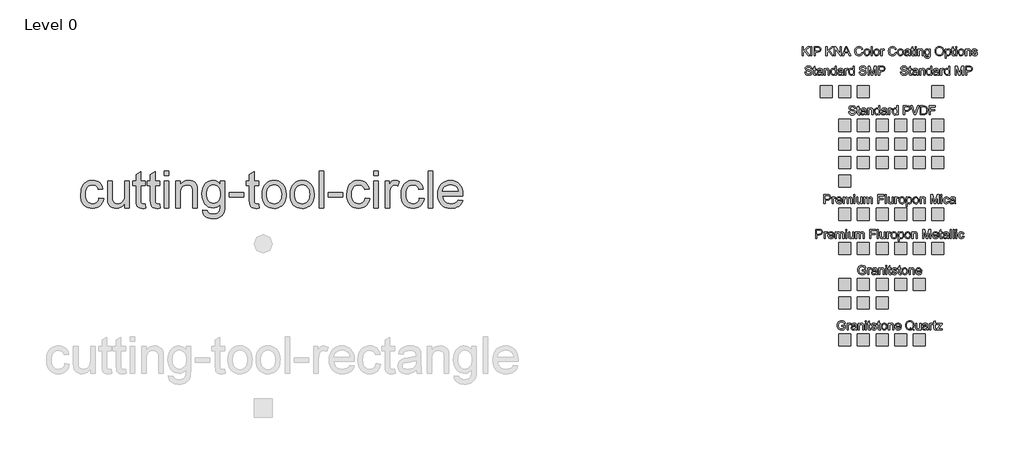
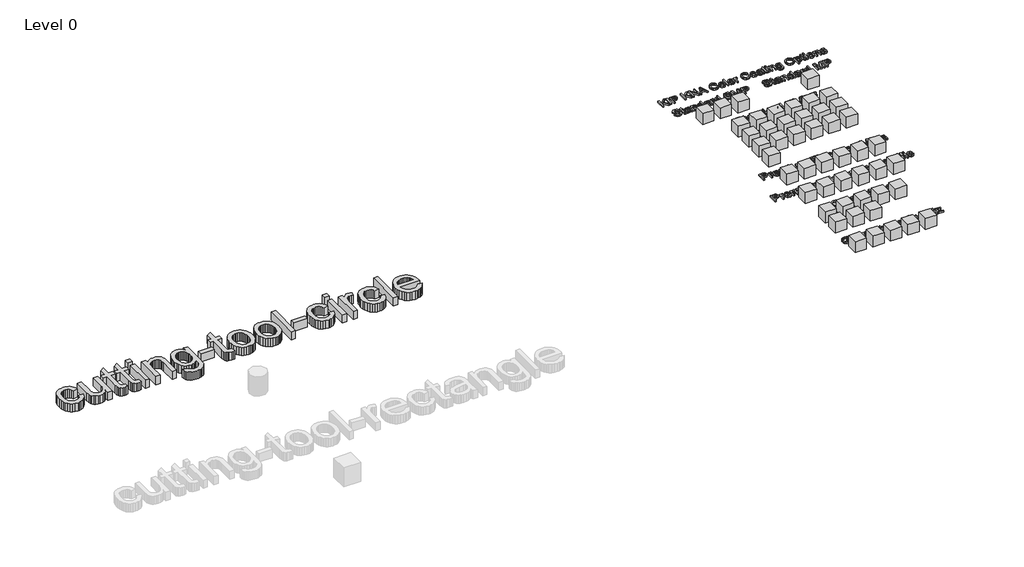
# One storey, part 3 of 3: 50 proxies.
"""IFC4 building model written with IfcOpenShell, lengths in millimetres."""

from ifc_helpers import new_model, si_unit, origin, origin_with_axes, place, context, project, spatial, polyline, outline, extrude, transform, mapped, element, save
from components import kna_color_range_kingspan_quadcore_4278cd54, kna_color_range_kingspan_quadcore_c5814d20, kna_color_range_kingspan_quadcore_91b79b7c, ks_color_sample_ks_color_sample_0243efec

model = new_model("IFC4")

# Units and contexts
model_context = context("Model", 3, world=origin())
ifc_project = project(units=[si_unit("LENGTHUNIT", "METRE", prefix="MILLI")], contexts=[model_context])

# Site, building, storey
site = spatial("IfcSite", under=ifc_project)
building = spatial("IfcBuilding", under=site)
storey = spatial("IfcBuildingStorey", under=building, Name="Level 0", Elevation=0.0)

# Proxies
placement = place(None, origin())
element("IfcBuildingElementProxy", 1, Name="24\" Arial", ObjectType="24\" Arial", at=placement, inside=storey, context=model_context, shape_type="SweptSolid", body=[
    extrude(outline(polyline([(73.842993, 11868.1857793), (149.9847665, 11858.6680576), (141.7032333, 11822.7395877), (128.7557857, 11790.9472371), (111.1424238, 11763.2910057), (88.8631476, 11739.7708937), (62.8567166, 11721.0003478), (34.0618906, 11707.5928151), (2.4786696, 11699.5482954), (-31.8929464, 11696.8667889), (-74.5972162, 11700.6078855), (-112.8865272, 11711.8311755), (-146.7608795, 11730.5366588), (-176.2202729, 11756.7243354), (-200.0656977, 11789.9015889), (-217.098144, 11829.5758028), (-227.3176118, 11875.7469771), (-230.724101, 11928.4151118), (-224.9056501, 11996.173111), (-217.6325864, 12026.6642106), (-207.4502972, 12054.8967102), (-194.2890727, 12080.3036363), (-178.079203, 12102.318015), (-158.820688, 12120.9398464), (-136.5135278, 12136.1691306), (-112.1661919, 12148.0105148), (-86.7871498, 12156.4686464), (-60.3764016, 12161.5435253), (-32.9339472, 12163.2351517), (0.8474586, 12160.9114891), (31.4036207, 12153.9405016), (58.7345393, 12142.322189), (82.8402143, 12126.0565513), (103.3116811, 12105.5153746), (119.7399752, 12081.0704449), (132.1250964, 12052.7217621), (140.4670448, 12020.4693263), (64.3252713, 12010.9516046), (50.5134213, 12044.170684), (29.005601, 12067.9835776), (0.9915256, 12082.315928), (-32.3390896, 12087.0933781), (-58.2107481, 12084.7418317), (-81.5449671, 12077.6871923), (-102.3417467, 12065.9294599), (-120.6010868, 12049.4686346), (-135.4678796, 12027.9236357), (-146.0870174, 12000.9133825), (-152.4585, 11968.4378751), (-154.5823275, 11930.4971135), (-152.5049732, 11891.9847308), (-146.2729104, 11859.1327901), (-135.8861389, 11831.9412913), (-121.3446588, 11810.4102343), (-103.4478101, 11794.0470029), (-82.9949326, 11782.3589804), (-59.9860263, 11775.3461669), (-34.4210912, 11773.0085624), (5.0068145, 11778.8456026), (22.0578501, 11786.141903), (37.3336075, 11796.3567234), (50.4065328, 11809.6015998), (60.8490722, 11825.9880679), (68.6612256, 11845.5161277), (73.842993, 11868.1857793)])), origin_with_axes(), (0.0, 0.0, 1.0), 152.4),
    extrude(outline(polyline([(502.1404691, 11706.3845106), (502.1404691, 11783.2698561), (474.5911262, 11745.4685142), (442.5059941, 11718.4675557), (405.8850727, 11702.2669806), (364.7283622, 11696.8667889), (327.6427083, 11700.6590061), (293.1223779, 11712.0356578), (264.1602482, 11729.137814), (243.7491966, 11750.1065446), (230.0117038, 11775.5738858), (221.0702504, 11806.1718739), (216.6088184, 11876.959929), (216.6088184, 12153.71743), (292.7505919, 12153.71743), (292.7505919, 11912.8000997), (293.9031285, 11864.6166336), (297.3607383, 11835.1711822), (308.4585505, 11809.276287), (327.4754046, 11789.5902181), (353.1472281, 11777.1539763), (384.2099487, 11773.0085624), (417.0572422, 11777.2469228), (447.7853553, 11789.9620041), (473.1225715, 11809.9826804), (489.7971737, 11836.1378258), (499.0546452, 11871.9594072), (502.1404691, 11920.9793918), (502.1404691, 12153.71743), (578.2822426, 12153.71743), (578.2822426, 11706.3845106), (502.1404691, 11706.3845106)])), origin_with_axes(), (0.0, 0.0, 1.0), 152.4),
    extrude(outline(polyline([(844.7784499, 11769.88556), (854.2961716, 11704.1537945), (824.1443267, 11698.6885403), (797.3385558, 11696.8667889), (760.7919917, 11700.0269699), (733.5400776, 11709.507513), (714.2815627, 11724.1187029), (701.7151957, 11742.6708245), (694.7999761, 11774.532885), (692.4949028, 11829.0738917), (692.4949028, 12077.5756565), (635.3885727, 12077.5756565), (635.3885727, 12153.71743), (692.4949028, 12153.71743), (692.4949028, 12262.4276574), (768.6366764, 12307.1906922), (768.6366764, 12153.71743), (844.7784499, 12153.71743), (844.7784499, 12077.5756565), (768.6366764, 12077.5756565), (768.6366764, 11831.3046077), (772.6519652, 11792.0440058), (785.6644753, 11778.1392092), (796.6507517, 11774.2912241), (811.6151384, 11773.0085624), (844.7784499, 11769.88556)])), origin_with_axes(), (0.0, 0.0, 1.0), 152.4),
    extrude(outline(polyline([(1082.7214921, 11769.88556), (1092.2392138, 11704.1537945), (1062.0873689, 11698.6885403), (1035.2815981, 11696.8667889), (998.7350339, 11700.0269699), (971.4831199, 11709.507513), (952.2246049, 11724.1187029), (939.658238, 11742.6708245), (932.7430183, 11774.532885), (930.4379451, 11829.0738917), (930.4379451, 12077.5756565), (873.3316149, 12077.5756565), (873.3316149, 12153.71743), (930.4379451, 12153.71743), (930.4379451, 12262.4276574), (1006.5797186, 12307.1906922), (1006.5797186, 12153.71743), (1082.7214921, 12153.71743), (1082.7214921, 12077.5756565), (1006.5797186, 12077.5756565), (1006.5797186, 11831.3046077), (1010.5950074, 11792.0440058), (1023.6075176, 11778.1392092), (1034.593794, 11774.2912241), (1049.5581806, 11773.0085624), (1082.7214921, 11769.88556)])), origin_with_axes(), (0.0, 0.0, 1.0), 152.4),
    extrude(outline(polyline([(1158.8632656, 12239.3769252), (1158.8632656, 12315.5186987), (1235.0050392, 12315.5186987), (1235.0050392, 12239.3769252), (1158.8632656, 12239.3769252)])), origin_with_axes(), (0.0, 0.0, 1.0), 152.4),
    extrude(outline(polyline([(1158.8632656, 11706.3845106), (1158.8632656, 12153.71743), (1235.0050392, 12153.71743), (1235.0050392, 11706.3845106), (1158.8632656, 11706.3845106)])), origin_with_axes(), (0.0, 0.0, 1.0), 152.4),
    extrude(outline(polyline([(1349.2176994, 11706.3845106), (1349.2176994, 12153.71743), (1425.3594729, 12153.71743), (1425.3594729, 12091.2573814), (1451.8120471, 12122.7476559), (1483.5811611, 12145.2407091), (1520.6668149, 12158.736541), (1563.0690086, 12163.2351517), (1600.6008057, 12159.6102381), (1634.9724217, 12148.7354975), (1663.6371226, 12131.9679488), (1684.0481742, 12110.6646108), (1697.8972028, 12084.8812514), (1706.8758348, 12054.6736386), (1710.8911236, 11981.0600099), (1710.8911236, 11706.3845106), (1634.7493501, 11706.3845106), (1634.7493501, 11970.7987162), (1632.5558127, 12010.170854), (1625.9752004, 12038.1663401), (1613.8363874, 12058.224195), (1594.9682477, 12073.7834392), (1570.7835682, 12083.7658934), (1542.6951357, 12087.0933781), (1519.5746936, 12085.2251535), (1498.0994045, 12079.6204795), (1478.2692686, 12070.2793561), (1460.0842857, 12057.2017835), (1444.8921801, 12038.9006174), (1434.0406761, 12013.8887141), (1427.5297737, 11982.1660733), (1425.3594729, 11943.7326952), (1425.3594729, 11706.3845106), (1349.2176994, 11706.3845106)])), origin_with_axes(), (0.0, 0.0, 1.0), 152.4),
    extrude(outline(polyline([(1796.5506188, 11668.3136238), (1872.6923924, 11658.7959021), (1881.094756, 11635.0015979), (1897.378983, 11618.6430137), (1929.3897579, 11605.9279324), (1971.2900405, 11601.689572), (2015.9787181, 11606.4856114), (2034.0289286, 11612.4806607), (2049.2163868, 11620.8737297), (2072.267119, 11643.924462), (2086.3949872, 11674.7083431), (2090.5218118, 11707.46269), (2091.5999912, 11763.4908407), (2066.2627751, 11738.5068213), (2037.9884495, 11720.6610931), (2006.7770145, 11709.9536562), (1972.6284701, 11706.3845106), (1930.8815492, 11710.5392191), (1894.1258555, 11723.0033449), (1862.3613888, 11743.7768879), (1835.5881492, 11772.859848), (1814.3452264, 11807.7519644), (1799.1717102, 11845.9529763), (1790.0676004, 11887.4628836), (1787.0328972, 11932.2816863), (1792.4795621, 11993.756502), (1808.819557, 12050.2865638), (1820.930486, 12075.7771417), (1835.4766134, 12098.1911903), (1852.4579391, 12117.5287099), (1871.8744632, 12133.7897002), (1893.4148147, 12146.6720852), (1916.7676231, 12155.8737888), (1941.9328882, 12161.3948109), (1968.9106101, 12163.2351517), (2004.5184146, 12159.0711484), (2036.8359129, 12146.5791387), (2065.8631051, 12125.7591225), (2091.5999912, 12096.6110998), (2091.5999912, 12153.71743), (2167.7417647, 12153.71743), (2167.7417647, 11767.5061295), (2162.5367607, 11678.3332566), (2156.0305056, 11645.1652978), (2146.9217485, 11619.6096573), (2134.9920652, 11598.9987708), (2120.0230312, 11580.6650735), (2102.0146466, 11564.6085654), (2080.9669115, 11550.8292467), (2057.0936028, 11539.7686131), (2030.6084973, 11531.8681605), (2001.5115952, 11527.127889), (1969.8028965, 11525.5477985), (1932.4988183, 11527.7738671), (1898.9590735, 11534.4520732), (1869.183662, 11545.5824167), (1843.1725837, 11561.1648976), (1822.1620272, 11581.2181052), (1807.3881808, 11605.7606287), (1798.8510447, 11634.7924683), (1796.5506188, 11668.3136238)]), holes=[polyline([(1863.1746707, 11937.4866903), (1865.2055517, 11899.8387102), (1871.2981948, 11867.6466896), (1881.4526001, 11840.9106286), (1895.6687674, 11819.6305272), (1912.9521692, 11803.3974208), (1932.308278, 11791.8023449), (1953.7370938, 11784.8452993), (1977.2386165, 11782.5262841), (2000.507773, 11784.8313573), (2021.8343477, 11791.746577), (2041.2183404, 11803.2719431), (2058.6597513, 11819.4074556), (2073.0711063, 11840.4784274), (2083.3649312, 11866.8101711), (2089.5412262, 11898.4026867), (2091.5999912, 11935.2559743), (2089.480811, 11970.5709973), (2083.1232703, 12001.2665792), (2072.5273692, 12027.3427201), (2057.6931077, 12048.7994198), (2039.8752635, 12065.5530266), (2020.3286144, 12077.5198886), (1999.0531603, 12084.7000057), (1976.0489013, 12087.0933781), (1953.4303703, 12084.7371843), (1932.5685282, 12077.668603), (1913.463375, 12065.887634), (1896.1149106, 12049.3942774), (1881.7035556, 12028.2628904), (1871.4097306, 12002.5678302), (1865.2334357, 11972.3090969), (1863.1746707, 11937.4866903)])]), origin_with_axes(), (0.0, 0.0, 1.0), 152.4),
    extrude(outline(polyline([(2243.8835383, 11887.2212227), (2243.8835383, 11963.3629962), (2481.8265805, 11963.3629962), (2481.8265805, 11887.2212227), (2243.8835383, 11887.2212227)])), origin_with_axes(), (0.0, 0.0, 1.0), 152.4),
    extrude(outline(polyline([(2729.2873444, 11769.88556), (2738.8050661, 11704.1537945), (2708.6532212, 11698.6885403), (2681.8474504, 11696.8667889), (2645.3008862, 11700.0269699), (2618.0489722, 11709.507513), (2598.7904572, 11724.1187029), (2586.2240903, 11742.6708245), (2579.3088706, 11774.532885), (2577.0037974, 11829.0738917), (2577.0037974, 12077.5756565), (2519.8974673, 12077.5756565), (2519.8974673, 12153.71743), (2577.0037974, 12153.71743), (2577.0037974, 12262.4276574), (2653.1455709, 12307.1906922), (2653.1455709, 12153.71743), (2729.2873444, 12153.71743), (2729.2873444, 12077.5756565), (2653.1455709, 12077.5756565), (2653.1455709, 11831.3046077), (2657.1608597, 11792.0440058), (2670.1733699, 11778.1392092), (2681.1596463, 11774.2912241), (2696.1240329, 11773.0085624), (2729.2873444, 11769.88556)])), origin_with_axes(), (0.0, 0.0, 1.0), 152.4),
    extrude(outline(polyline([(2786.3936746, 11930.0509703), (2790.5112046, 11987.9845243), (2802.8637945, 12037.9060899), (2823.4514445, 12079.8156671), (2852.2741544, 12113.713256), (2881.292052, 12135.3790853), (2913.3214162, 12150.8546777), (2948.362247, 12160.1400332), (2986.4145444, 12163.2351517), (3028.4217155, 12159.466171), (3066.4043031, 12148.1592292), (3100.3623072, 12129.3143262), (3130.2957278, 12102.9314619), (3154.7267156, 12069.9029228), (3172.1774211, 12031.1209953), (3182.6478444, 11986.5856794), (3186.1379855, 11936.2969751), (3184.5950736, 11895.5399345), (3179.9663379, 11859.374451), (3172.2517783, 11827.8005246), (3161.4513949, 11800.8181554), (3147.6999601, 11777.5118203), (3131.1322463, 11756.9659963), (3111.7482536, 11739.1806834), (3089.5479818, 11724.1558815), (3065.3958336, 11712.2169035), (3040.1562113, 11703.689062), (3013.8291149, 11698.5723572), (2986.4145444, 11696.8667889), (2943.7939265, 11700.6218275), (2905.4581422, 11711.8869434), (2871.4071916, 11730.6621366), (2841.6410747, 11756.947407), (2817.4703371, 11790.2966115), (2800.2055246, 11830.2636069), (2789.8466371, 11876.8483932), (2786.3936746, 11930.0509703)]), holes=[polyline([(2862.5354481, 11930.1996847), (2864.7382802, 11893.2673925), (2871.3467764, 11861.2891489), (2882.3609367, 11834.2649538), (2897.7807612, 11812.1948072), (2916.5373651, 11795.0508251), (2937.5618636, 11782.8051236), (2960.8542567, 11775.4577027), (2986.4145444, 11773.0085624), (3011.8447071, 11775.4716447), (3035.0441537, 11782.8608915), (3056.0128843, 11795.1763028), (3074.7508989, 11812.4178788), (3090.1707234, 11834.7064497), (3101.1848837, 11862.162846), (3107.7933799, 11894.7870678), (3109.996212, 11932.5791151), (3107.779438, 11968.3402813), (3101.1291158, 11999.4820064), (3090.0452456, 12026.0042904), (3074.5278273, 12047.9071334), (3055.7201028, 12065.0511155), (3034.7653142, 12077.2968169), (3011.6634614, 12084.6442378), (2986.4145444, 12087.0933781), (2960.8542567, 12084.6535325), (2937.5618636, 12077.3339955), (2916.5373651, 12065.1347673), (2897.7807612, 12048.0558478), (2882.3609367, 12026.0507637), (2871.3467764, 11999.0730418), (2864.7382802, 11967.1226821), (2862.5354481, 11930.1996847)])]), origin_with_axes(), (0.0, 0.0, 1.0), 152.4),
    extrude(outline(polyline([(3252.7620374, 11930.0509703), (3256.8795673, 11987.9845243), (3269.2321573, 12037.9060899), (3289.8198073, 12079.8156671), (3318.6425172, 12113.713256), (3347.6604148, 12135.3790853), (3379.689779, 12150.8546777), (3414.7306098, 12160.1400332), (3452.7829072, 12163.2351517), (3494.7900783, 12159.466171), (3532.7726659, 12148.1592292), (3566.73067, 12129.3143262), (3596.6640906, 12102.9314619), (3621.0950784, 12069.9029228), (3638.5457839, 12031.1209953), (3649.0162072, 11986.5856794), (3652.5063483, 11936.2969751), (3650.9634364, 11895.5399345), (3646.3347007, 11859.374451), (3638.6201411, 11827.8005246), (3627.8197577, 11800.8181554), (3614.0683229, 11777.5118203), (3597.5006091, 11756.9659963), (3578.1166163, 11739.1806834), (3555.9163446, 11724.1558815), (3531.7641964, 11712.2169035), (3506.524574, 11703.689062), (3480.1974777, 11698.5723572), (3452.7829072, 11696.8667889), (3410.1622893, 11700.6218275), (3371.826505, 11711.8869434), (3337.7755544, 11730.6621366), (3308.0094375, 11756.947407), (3283.8386999, 11790.2966115), (3266.5738874, 11830.2636069), (3256.2149999, 11876.8483932), (3252.7620374, 11930.0509703)]), holes=[polyline([(3328.9038109, 11930.1996847), (3331.1066429, 11893.2673925), (3337.7151392, 11861.2891489), (3348.7292995, 11834.2649538), (3364.149124, 11812.1948072), (3382.9057279, 11795.0508251), (3403.9302264, 11782.8051236), (3427.2226195, 11775.4577027), (3452.7829072, 11773.0085624), (3478.2130699, 11775.4716447), (3501.4125165, 11782.8608915), (3522.3812471, 11795.1763028), (3541.1192617, 11812.4178788), (3556.5390862, 11834.7064497), (3567.5532465, 11862.162846), (3574.1617427, 11894.7870678), (3576.3645748, 11932.5791151), (3574.1478008, 11968.3402813), (3567.4974786, 11999.4820064), (3556.4136084, 12026.0042904), (3540.8961901, 12047.9071334), (3522.0884656, 12065.0511155), (3501.133677, 12077.2968169), (3478.0318242, 12084.6442378), (3452.7829072, 12087.0933781), (3427.2226195, 12084.6535325), (3403.9302264, 12077.3339955), (3382.9057279, 12065.1347673), (3364.149124, 12048.0558478), (3348.7292995, 12026.0507637), (3337.7151392, 11999.0730418), (3331.1066429, 11967.1226821), (3328.9038109, 11930.1996847)])]), origin_with_axes(), (0.0, 0.0, 1.0), 152.4),
    extrude(outline(polyline([(3738.1658435, 11706.3845106), (3738.1658435, 12315.5186987), (3814.307617, 12315.5186987), (3814.307617, 11706.3845106), (3738.1658435, 11706.3845106)])), origin_with_axes(), (0.0, 0.0, 1.0), 152.4),
    extrude(outline(polyline([(3890.4493906, 11887.2212227), (3890.4493906, 11963.3629962), (4128.3924328, 11963.3629962), (4128.3924328, 11887.2212227), (3890.4493906, 11887.2212227)])), origin_with_axes(), (0.0, 0.0, 1.0), 152.4),
    extrude(outline(polyline([(4499.5835787, 11868.1857793), (4575.7253522, 11858.6680576), (4567.443819, 11822.7395877), (4554.4963714, 11790.9472371), (4536.8830095, 11763.2910057), (4514.6037332, 11739.7708937), (4488.5973023, 11721.0003478), (4459.8024763, 11707.5928151), (4428.2192553, 11699.5482954), (4393.8476393, 11696.8667889), (4351.1433695, 11700.6078855), (4312.8540584, 11711.8311755), (4278.9797062, 11730.5366588), (4249.5203127, 11756.7243354), (4225.6748879, 11789.9015889), (4208.6424417, 11829.5758028), (4198.4229739, 11875.7469771), (4195.0164846, 11928.4151118), (4200.8349356, 11996.173111), (4208.1079993, 12026.6642106), (4218.2902884, 12054.8967102), (4231.451513, 12080.3036363), (4247.6613827, 12102.318015), (4266.9198977, 12120.9398464), (4289.2270579, 12136.1691306), (4313.5743938, 12148.0105148), (4338.9534359, 12156.4686464), (4365.3641841, 12161.5435253), (4392.8066385, 12163.2351517), (4426.5880442, 12160.9114891), (4457.1442064, 12153.9405016), (4484.475125, 12142.322189), (4508.5808, 12126.0565513), (4529.0522668, 12105.5153746), (4545.4805608, 12081.0704449), (4557.8656821, 12052.7217621), (4566.2076305, 12020.4693263), (4490.065857, 12010.9516046), (4476.254007, 12044.170684), (4454.7461867, 12067.9835776), (4426.7321113, 12082.315928), (4393.4014961, 12087.0933781), (4367.5298376, 12084.7418317), (4344.1956185, 12077.6871923), (4323.398839, 12065.9294599), (4305.1394989, 12049.4686346), (4290.2727061, 12027.9236357), (4279.6535683, 12000.9133825), (4273.2820857, 11968.4378751), (4271.1582581, 11930.4971135), (4273.2356124, 11891.9847308), (4279.4676753, 11859.1327901), (4289.8544468, 11831.9412913), (4304.3959269, 11810.4102343), (4322.2927756, 11794.0470029), (4342.7456531, 11782.3589804), (4365.7545594, 11775.3461669), (4391.3194945, 11773.0085624), (4430.7474002, 11778.8456026), (4447.7984357, 11786.141903), (4463.0741932, 11796.3567234), (4476.1471185, 11809.6015998), (4486.5896579, 11825.9880679), (4494.4018113, 11845.5161277), (4499.5835787, 11868.1857793)])), origin_with_axes(), (0.0, 0.0, 1.0), 152.4),
    extrude(outline(polyline([(4642.349404, 12239.3769252), (4642.349404, 12315.5186987), (4718.4911776, 12315.5186987), (4718.4911776, 12239.3769252), (4642.349404, 12239.3769252)])), origin_with_axes(), (0.0, 0.0, 1.0), 152.4),
    extrude(outline(polyline([(4642.349404, 11706.3845106), (4642.349404, 12153.71743), (4718.4911776, 12153.71743), (4718.4911776, 11706.3845106), (4642.349404, 11706.3845106)])), origin_with_axes(), (0.0, 0.0, 1.0), 152.4),
    extrude(outline(polyline([(4832.7038378, 11706.3845106), (4832.7038378, 12153.71743), (4899.3278897, 12153.71743), (4899.3278897, 12087.5395213), (4923.9401231, 12125.9078369), (4946.6190693, 12148.5124259), (4969.3723727, 12159.5544702), (4994.2076778, 12163.2351517), (5032.1298501, 12157.3609328), (5070.6468801, 12139.7382762), (5045.2167174, 12071.478366), (5018.4481252, 12083.1896251), (4991.6795329, 12087.0933781), (4968.9448188, 12083.3383395), (4948.6267137, 12072.0732236), (4932.2123617, 12054.1531382), (4921.1889067, 12030.4331912), (4911.9314352, 11987.9008724), (4908.8456114, 11941.5019792), (4908.8456114, 11706.3845106), (4832.7038378, 11706.3845106)])), origin_with_axes(), (0.0, 0.0, 1.0), 152.4),
    extrude(outline(polyline([(5403.7671392, 11868.1857793), (5479.9089127, 11858.6680576), (5471.6273795, 11822.7395877), (5458.6799319, 11790.9472371), (5441.06657, 11763.2910057), (5418.7872938, 11739.7708937), (5392.7808628, 11721.0003478), (5363.9860368, 11707.5928151), (5332.4028158, 11699.5482954), (5298.0311998, 11696.8667889), (5255.32693, 11700.6078855), (5217.037619, 11711.8311755), (5183.1632667, 11730.5366588), (5153.7038733, 11756.7243354), (5129.8584485, 11789.9015889), (5112.8260022, 11829.5758028), (5102.6065344, 11875.7469771), (5099.2000451, 11928.4151118), (5105.0184961, 11996.173111), (5112.2915598, 12026.6642106), (5122.473849, 12054.8967102), (5135.6350735, 12080.3036363), (5151.8449432, 12102.318015), (5171.1034582, 12120.9398464), (5193.4106184, 12136.1691306), (5217.7579543, 12148.0105148), (5243.1369964, 12156.4686464), (5269.5477446, 12161.5435253), (5296.990199, 12163.2351517), (5330.7716048, 12160.9114891), (5361.3277669, 12153.9405016), (5388.6586855, 12142.322189), (5412.7643605, 12126.0565513), (5433.2358273, 12105.5153746), (5449.6641213, 12081.0704449), (5462.0492426, 12052.7217621), (5470.391191, 12020.4693263), (5394.2494175, 12010.9516046), (5380.4375675, 12044.170684), (5358.9297472, 12067.9835776), (5330.9156718, 12082.315928), (5297.5850566, 12087.0933781), (5271.7133981, 12084.7418317), (5248.3791791, 12077.6871923), (5227.5823995, 12065.9294599), (5209.3230594, 12049.4686346), (5194.4562666, 12027.9236357), (5183.8371288, 12000.9133825), (5177.4656462, 11968.4378751), (5175.3418187, 11930.4971135), (5177.419173, 11891.9847308), (5183.6512358, 11859.1327901), (5194.0380073, 11831.9412913), (5208.5794874, 11810.4102343), (5226.4763361, 11794.0470029), (5246.9292136, 11782.3589804), (5269.9381199, 11775.3461669), (5295.503055, 11773.0085624), (5334.9309607, 11778.8456026), (5351.9819963, 11786.141903), (5367.2577537, 11796.3567234), (5380.330679, 11809.6015998), (5390.7732184, 11825.9880679), (5398.5853718, 11845.5161277), (5403.7671392, 11868.1857793)])), origin_with_axes(), (0.0, 0.0, 1.0), 152.4),
    extrude(outline(polyline([(5546.5329646, 11706.3845106), (5546.5329646, 12315.5186987), (5622.6747381, 12315.5186987), (5622.6747381, 11706.3845106), (5546.5329646, 11706.3845106)])), origin_with_axes(), (0.0, 0.0, 1.0), 152.4),
    extrude(outline(polyline([(6050.0799277, 11839.6326142), (6124.7345572, 11830.1148925), (6113.2881956, 11800.2140032), (6097.8358399, 11773.8636702), (6078.3774899, 11751.0638935), (6054.9131457, 11731.8146732), (6027.6844683, 11716.5249738), (5996.9331185, 11705.6037599), (5962.6590963, 11699.0510316), (5924.8624017, 11696.8667889), (5877.6176953, 11700.6357695), (5835.5222251, 11711.9427113), (5798.575991, 11730.7876144), (5766.778993, 11757.1704786), (5741.2094106, 11790.3570268), (5722.9454232, 11829.6129814), (5711.9870308, 11874.9383426), (5708.3342333, 11926.3331102), (5712.0242094, 11979.4706248), (5723.0941376, 12026.3063666), (5741.544018, 12066.8403356), (5767.3738506, 12101.0725319), (5799.0871967, 12128.268678), (5835.1876177, 12147.6944967), (5875.6751135, 12159.3499879), (5920.5496841, 12163.2351517), (5963.9789366, 12159.3592826), (6003.2534806, 12147.7316753), (6038.3733159, 12128.3523299), (6069.3384427, 12101.2212463), (6094.6152436, 12067.0634072), (6112.6701014, 12026.6037954), (6123.5030161, 11979.8424108), (6127.1139876, 11926.7792534), (6126.6678444, 11906.256666), (5784.4760068, 11906.256666), (5788.8863183, 11875.8724549), (5797.6558206, 11849.2618717), (5810.7845139, 11826.4249164), (5828.272398, 11807.3615891), (5849.1528294, 11792.3321399), (5872.4591645, 11781.5968191), (5898.1914033, 11775.1556266), (5926.3495457, 11773.0085624), (5966.8742201, 11776.9866726), (6001.0041752, 11788.9210033), (6028.7394111, 11809.5551265), (6050.0799277, 11839.6326142)]), holes=[polyline([(5784.4760068, 11982.3984396), (6050.9722141, 11982.3984396), (6040.6737418, 12022.6256851), (6031.8159403, 12038.4451796), (6020.4857618, 12051.4019218), (5999.7215135, 12067.016934), (5976.094513, 12078.1705141), (5949.6047603, 12084.8626621), (5920.2522553, 12087.0933781), (5893.4790157, 12085.3134526), (5868.9271975, 12079.9736762), (5846.5968007, 12071.0740487), (5826.4878252, 12058.6145703), (5809.613388, 12043.1715092), (5796.9866058, 12025.3211337), (5788.6074788, 12005.0634438), (5784.4760068, 11982.3984396)])]), origin_with_axes(), (0.0, 0.0, 1.0), 152.4),
])
kna_color_range_kingspan_quadcore_shape = kna_color_range_kingspan_quadcore_4278cd54(model_context)
kna_color_range_kingspan_quadcore_2_shape = kna_color_range_kingspan_quadcore_c5814d20(model_context)
kna_color_range_kingspan_quadcore_3_shape = kna_color_range_kingspan_quadcore_91b79b7c(model_context)
element("IfcBuildingElementProxy", 2, Name="KNA_Color Range : Kingspan Quadcore", ObjectType="KNA_Color Range : Kingspan Quadcore", at=placement, inside=storey, context=model_context, shape_type="MappedRepresentation", body=[
    mapped(kna_color_range_kingspan_quadcore_shape, transform((13221.5853815, 13539.2290821, 0.0), x_axis=(1.0, 0.0, 0.0), y_axis=(0.0, 1.0, 0.0), z_axis=(0.0, 0.0, 1.0))),
    mapped(kna_color_range_kingspan_quadcore_2_shape, transform((13221.5853815, 13539.2290821, 0.0), x_axis=(1.0, 0.0, 0.0), y_axis=(0.0, 1.0, 0.0), z_axis=(0.0, 0.0, 1.0))),
    mapped(kna_color_range_kingspan_quadcore_3_shape, transform((13221.5853815, 13539.2290821, 0.0), x_axis=(1.0, 0.0, 0.0), y_axis=(0.0, 1.0, 0.0), z_axis=(0.0, 0.0, 1.0))),
])
ks_color_sample_ks_color_sample_shape = ks_color_sample_ks_color_sample_0243efec(model_context)
element("IfcBuildingElementProxy", 3, Name="KS_Color Sample : KS_Color Sample", ObjectType="KS_Color Sample : KS_Color Sample", at=placement, inside=storey, context=model_context, shape_type="MappedRepresentation", body=[
    mapped(ks_color_sample_ks_color_sample_shape, transform((12166.5853815, 13639.2290821, 0.0), x_axis=(1.0, 0.0, 0.0), y_axis=(0.0, 1.0, 0.0), z_axis=(0.0, 0.0, 1.0))),
])
element("IfcBuildingElementProxy", 4, Name="KS_Color Sample : KS_Color Sample", ObjectType="KS_Color Sample : KS_Color Sample", at=placement, inside=storey, context=model_context, shape_type="MappedRepresentation", body=[
    mapped(ks_color_sample_ks_color_sample_shape, transform((12476.5853815, 13639.2290821, 0.0), x_axis=(1.0, 0.0, 0.0), y_axis=(0.0, 1.0, 0.0), z_axis=(0.0, 0.0, 1.0))),
])
element("IfcBuildingElementProxy", 5, Name="KS_Color Sample : KS_Color Sample", ObjectType="KS_Color Sample : KS_Color Sample", at=placement, inside=storey, context=model_context, shape_type="MappedRepresentation", body=[
    mapped(ks_color_sample_ks_color_sample_shape, transform((12786.5853815, 13639.2290821, 0.0), x_axis=(1.0, 0.0, 0.0), y_axis=(0.0, 1.0, 0.0), z_axis=(0.0, 0.0, 1.0))),
])
element("IfcBuildingElementProxy", 6, Name="KS_Color Sample : KS_Color Sample", ObjectType="KS_Color Sample : KS_Color Sample", at=placement, inside=storey, context=model_context, shape_type="MappedRepresentation", body=[
    mapped(ks_color_sample_ks_color_sample_shape, transform((14026.5853815, 13639.2290821, 0.0), x_axis=(1.0, 0.0, 0.0), y_axis=(0.0, 1.0, 0.0), z_axis=(0.0, 0.0, 1.0))),
])
element("IfcBuildingElementProxy", 7, Name="KS_Color Sample : KS_Color Sample", ObjectType="KS_Color Sample : KS_Color Sample", at=placement, inside=storey, context=model_context, shape_type="MappedRepresentation", body=[
    mapped(ks_color_sample_ks_color_sample_shape, transform((12786.5853815, 13079.2290821, 0.0), x_axis=(1.0, 0.0, 0.0), y_axis=(0.0, 1.0, 0.0), z_axis=(0.0, 0.0, 1.0))),
])
element("IfcBuildingElementProxy", 8, Name="KS_Color Sample : KS_Color Sample", ObjectType="KS_Color Sample : KS_Color Sample", at=placement, inside=storey, context=model_context, shape_type="MappedRepresentation", body=[
    mapped(ks_color_sample_ks_color_sample_shape, transform((13096.5853815, 13079.2290821, 0.0), x_axis=(1.0, 0.0, 0.0), y_axis=(0.0, 1.0, 0.0), z_axis=(0.0, 0.0, 1.0))),
])
element("IfcBuildingElementProxy", 9, Name="KS_Color Sample : KS_Color Sample", ObjectType="KS_Color Sample : KS_Color Sample", at=placement, inside=storey, context=model_context, shape_type="MappedRepresentation", body=[
    mapped(ks_color_sample_ks_color_sample_shape, transform((13406.5853815, 13079.2290821, 0.0), x_axis=(1.0, 0.0, 0.0), y_axis=(0.0, 1.0, 0.0), z_axis=(0.0, 0.0, 1.0))),
])
element("IfcBuildingElementProxy", 10, Name="KS_Color Sample : KS_Color Sample", ObjectType="KS_Color Sample : KS_Color Sample", at=placement, inside=storey, context=model_context, shape_type="MappedRepresentation", body=[
    mapped(ks_color_sample_ks_color_sample_shape, transform((13716.5853815, 13079.2290821, 0.0), x_axis=(1.0, 0.0, 0.0), y_axis=(0.0, 1.0, 0.0), z_axis=(0.0, 0.0, 1.0))),
])
element("IfcBuildingElementProxy", 11, Name="KS_Color Sample : KS_Color Sample", ObjectType="KS_Color Sample : KS_Color Sample", at=placement, inside=storey, context=model_context, shape_type="MappedRepresentation", body=[
    mapped(ks_color_sample_ks_color_sample_shape, transform((12476.5853815, 11599.2290821, 0.0), x_axis=(1.0, 0.0, 0.0), y_axis=(0.0, 1.0, 0.0), z_axis=(0.0, 0.0, 1.0))),
])
element("IfcBuildingElementProxy", 12, Name="KS_Color Sample : KS_Color Sample", ObjectType="KS_Color Sample : KS_Color Sample", at=placement, inside=storey, context=model_context, shape_type="MappedRepresentation", body=[
    mapped(ks_color_sample_ks_color_sample_shape, transform((12786.5853815, 11599.2290821, 0.0), x_axis=(1.0, 0.0, 0.0), y_axis=(0.0, 1.0, 0.0), z_axis=(0.0, 0.0, 1.0))),
])
element("IfcBuildingElementProxy", 13, Name="KS_Color Sample : KS_Color Sample", ObjectType="KS_Color Sample : KS_Color Sample", at=placement, inside=storey, context=model_context, shape_type="MappedRepresentation", body=[
    mapped(ks_color_sample_ks_color_sample_shape, transform((13096.5853815, 11599.2290821, 0.0), x_axis=(1.0, 0.0, 0.0), y_axis=(0.0, 1.0, 0.0), z_axis=(0.0, 0.0, 1.0))),
])
element("IfcBuildingElementProxy", 14, Name="KS_Color Sample : KS_Color Sample", ObjectType="KS_Color Sample : KS_Color Sample", at=placement, inside=storey, context=model_context, shape_type="MappedRepresentation", body=[
    mapped(ks_color_sample_ks_color_sample_shape, transform((13406.5853815, 11599.2290821, 0.0), x_axis=(1.0, 0.0, 0.0), y_axis=(0.0, 1.0, 0.0), z_axis=(0.0, 0.0, 1.0))),
])
element("IfcBuildingElementProxy", 15, Name="KS_Color Sample : KS_Color Sample", ObjectType="KS_Color Sample : KS_Color Sample", at=placement, inside=storey, context=model_context, shape_type="MappedRepresentation", body=[
    mapped(ks_color_sample_ks_color_sample_shape, transform((14026.5853815, 13079.2290821, 0.0), x_axis=(1.0, 0.0, 0.0), y_axis=(0.0, 1.0, 0.0), z_axis=(0.0, 0.0, 1.0))),
])
element("IfcBuildingElementProxy", 16, Name="KS_Color Sample : KS_Color Sample", ObjectType="KS_Color Sample : KS_Color Sample", at=placement, inside=storey, context=model_context, shape_type="MappedRepresentation", body=[
    mapped(ks_color_sample_ks_color_sample_shape, transform((13716.5853815, 12769.2290821, 0.0), x_axis=(1.0, 0.0, 0.0), y_axis=(0.0, 1.0, 0.0), z_axis=(0.0, 0.0, 1.0))),
])
element("IfcBuildingElementProxy", 17, Name="KS_Color Sample : KS_Color Sample", ObjectType="KS_Color Sample : KS_Color Sample", at=placement, inside=storey, context=model_context, shape_type="MappedRepresentation", body=[
    mapped(ks_color_sample_ks_color_sample_shape, transform((14026.5853815, 12769.2290821, 0.0), x_axis=(1.0, 0.0, 0.0), y_axis=(0.0, 1.0, 0.0), z_axis=(0.0, 0.0, 1.0))),
])
element("IfcBuildingElementProxy", 18, Name="KS_Color Sample : KS_Color Sample", ObjectType="KS_Color Sample : KS_Color Sample", at=placement, inside=storey, context=model_context, shape_type="MappedRepresentation", body=[
    mapped(ks_color_sample_ks_color_sample_shape, transform((12476.5853815, 12769.2290821, 0.0), x_axis=(1.0, 0.0, 0.0), y_axis=(0.0, 1.0, 0.0), z_axis=(0.0, 0.0, 1.0))),
])
element("IfcBuildingElementProxy", 19, Name="KS_Color Sample : KS_Color Sample", ObjectType="KS_Color Sample : KS_Color Sample", at=placement, inside=storey, context=model_context, shape_type="MappedRepresentation", body=[
    mapped(ks_color_sample_ks_color_sample_shape, transform((13096.5853815, 12769.2290821, 0.0), x_axis=(1.0, 0.0, 0.0), y_axis=(0.0, 1.0, 0.0), z_axis=(0.0, 0.0, 1.0))),
])
element("IfcBuildingElementProxy", 20, Name="KS_Color Sample : KS_Color Sample", ObjectType="KS_Color Sample : KS_Color Sample", at=placement, inside=storey, context=model_context, shape_type="MappedRepresentation", body=[
    mapped(ks_color_sample_ks_color_sample_shape, transform((13406.5853815, 12769.2290821, 0.0), x_axis=(1.0, 0.0, 0.0), y_axis=(0.0, 1.0, 0.0), z_axis=(0.0, 0.0, 1.0))),
])
element("IfcBuildingElementProxy", 21, Name="KS_Color Sample : KS_Color Sample", ObjectType="KS_Color Sample : KS_Color Sample", at=placement, inside=storey, context=model_context, shape_type="MappedRepresentation", body=[
    mapped(ks_color_sample_ks_color_sample_shape, transform((12476.5853815, 12459.2290821, 0.0), x_axis=(1.0, 0.0, 0.0), y_axis=(0.0, 1.0, 0.0), z_axis=(0.0, 0.0, 1.0))),
])
element("IfcBuildingElementProxy", 22, Name="KS_Color Sample : KS_Color Sample", ObjectType="KS_Color Sample : KS_Color Sample", at=placement, inside=storey, context=model_context, shape_type="MappedRepresentation", body=[
    mapped(ks_color_sample_ks_color_sample_shape, transform((12786.5853815, 12459.2290821, 0.0), x_axis=(1.0, 0.0, 0.0), y_axis=(0.0, 1.0, 0.0), z_axis=(0.0, 0.0, 1.0))),
])
element("IfcBuildingElementProxy", 23, Name="KS_Color Sample : KS_Color Sample", ObjectType="KS_Color Sample : KS_Color Sample", at=placement, inside=storey, context=model_context, shape_type="MappedRepresentation", body=[
    mapped(ks_color_sample_ks_color_sample_shape, transform((13096.5853815, 12459.2290821, 0.0), x_axis=(1.0, 0.0, 0.0), y_axis=(0.0, 1.0, 0.0), z_axis=(0.0, 0.0, 1.0))),
])
element("IfcBuildingElementProxy", 24, Name="KS_Color Sample : KS_Color Sample", ObjectType="KS_Color Sample : KS_Color Sample", at=placement, inside=storey, context=model_context, shape_type="MappedRepresentation", body=[
    mapped(ks_color_sample_ks_color_sample_shape, transform((13406.5853815, 12459.2290821, 0.0), x_axis=(1.0, 0.0, 0.0), y_axis=(0.0, 1.0, 0.0), z_axis=(0.0, 0.0, 1.0))),
])
element("IfcBuildingElementProxy", 25, Name="KS_Color Sample : KS_Color Sample", ObjectType="KS_Color Sample : KS_Color Sample", at=placement, inside=storey, context=model_context, shape_type="MappedRepresentation", body=[
    mapped(ks_color_sample_ks_color_sample_shape, transform((13716.5853815, 12459.2290821, 0.0), x_axis=(1.0, 0.0, 0.0), y_axis=(0.0, 1.0, 0.0), z_axis=(0.0, 0.0, 1.0))),
])
element("IfcBuildingElementProxy", 26, Name="KS_Color Sample : KS_Color Sample", ObjectType="KS_Color Sample : KS_Color Sample", at=placement, inside=storey, context=model_context, shape_type="MappedRepresentation", body=[
    mapped(ks_color_sample_ks_color_sample_shape, transform((14026.5853815, 12459.2290821, 0.0), x_axis=(1.0, 0.0, 0.0), y_axis=(0.0, 1.0, 0.0), z_axis=(0.0, 0.0, 1.0))),
])
element("IfcBuildingElementProxy", 27, Name="KS_Color Sample : KS_Color Sample", ObjectType="KS_Color Sample : KS_Color Sample", at=placement, inside=storey, context=model_context, shape_type="MappedRepresentation", body=[
    mapped(ks_color_sample_ks_color_sample_shape, transform((12476.5853815, 12149.2290821, 0.0), x_axis=(1.0, 0.0, 0.0), y_axis=(0.0, 1.0, 0.0), z_axis=(0.0, 0.0, 1.0))),
])
element("IfcBuildingElementProxy", 28, Name="KS_Color Sample : KS_Color Sample", ObjectType="KS_Color Sample : KS_Color Sample", at=placement, inside=storey, context=model_context, shape_type="MappedRepresentation", body=[
    mapped(ks_color_sample_ks_color_sample_shape, transform((13716.5853815, 11599.2290821, 0.0), x_axis=(1.0, 0.0, 0.0), y_axis=(0.0, 1.0, 0.0), z_axis=(0.0, 0.0, 1.0))),
])
element("IfcBuildingElementProxy", 29, Name="KS_Color Sample : KS_Color Sample", ObjectType="KS_Color Sample : KS_Color Sample", at=placement, inside=storey, context=model_context, shape_type="MappedRepresentation", body=[
    mapped(ks_color_sample_ks_color_sample_shape, transform((14026.5853815, 11599.2290821, 0.0), x_axis=(1.0, 0.0, 0.0), y_axis=(0.0, 1.0, 0.0), z_axis=(0.0, 0.0, 1.0))),
])
element("IfcBuildingElementProxy", 30, Name="KS_Color Sample : KS_Color Sample", ObjectType="KS_Color Sample : KS_Color Sample", at=placement, inside=storey, context=model_context, shape_type="MappedRepresentation", body=[
    mapped(ks_color_sample_ks_color_sample_shape, transform((12476.5853815, 11029.2290821, 0.0), x_axis=(1.0, 0.0, 0.0), y_axis=(0.0, 1.0, 0.0), z_axis=(0.0, 0.0, 1.0))),
])
element("IfcBuildingElementProxy", 31, Name="KS_Color Sample : KS_Color Sample", ObjectType="KS_Color Sample : KS_Color Sample", at=placement, inside=storey, context=model_context, shape_type="MappedRepresentation", body=[
    mapped(ks_color_sample_ks_color_sample_shape, transform((12786.5853815, 11029.2290821, 0.0), x_axis=(1.0, 0.0, 0.0), y_axis=(0.0, 1.0, 0.0), z_axis=(0.0, 0.0, 1.0))),
])
element("IfcBuildingElementProxy", 32, Name="KS_Color Sample : KS_Color Sample", ObjectType="KS_Color Sample : KS_Color Sample", at=placement, inside=storey, context=model_context, shape_type="MappedRepresentation", body=[
    mapped(ks_color_sample_ks_color_sample_shape, transform((13096.5853815, 11029.2290821, 0.0), x_axis=(1.0, 0.0, 0.0), y_axis=(0.0, 1.0, 0.0), z_axis=(0.0, 0.0, 1.0))),
])
element("IfcBuildingElementProxy", 33, Name="KS_Color Sample : KS_Color Sample", ObjectType="KS_Color Sample : KS_Color Sample", at=placement, inside=storey, context=model_context, shape_type="MappedRepresentation", body=[
    mapped(ks_color_sample_ks_color_sample_shape, transform((13406.5853815, 11029.2290821, 0.0), x_axis=(1.0, 0.0, 0.0), y_axis=(0.0, 1.0, 0.0), z_axis=(0.0, 0.0, 1.0))),
])
element("IfcBuildingElementProxy", 34, Name="KS_Color Sample : KS_Color Sample", ObjectType="KS_Color Sample : KS_Color Sample", at=placement, inside=storey, context=model_context, shape_type="MappedRepresentation", body=[
    mapped(ks_color_sample_ks_color_sample_shape, transform((13716.5853815, 11029.2290821, 0.0), x_axis=(1.0, 0.0, 0.0), y_axis=(0.0, 1.0, 0.0), z_axis=(0.0, 0.0, 1.0))),
])
element("IfcBuildingElementProxy", 35, Name="KS_Color Sample : KS_Color Sample", ObjectType="KS_Color Sample : KS_Color Sample", at=placement, inside=storey, context=model_context, shape_type="MappedRepresentation", body=[
    mapped(ks_color_sample_ks_color_sample_shape, transform((14026.5853815, 11029.2290821, 0.0), x_axis=(1.0, 0.0, 0.0), y_axis=(0.0, 1.0, 0.0), z_axis=(0.0, 0.0, 1.0))),
])
element("IfcBuildingElementProxy", 36, Name="KS_Color Sample : KS_Color Sample", ObjectType="KS_Color Sample : KS_Color Sample", at=placement, inside=storey, context=model_context, shape_type="MappedRepresentation", body=[
    mapped(ks_color_sample_ks_color_sample_shape, transform((12476.5853815, 10429.2290821, 0.0), x_axis=(1.0, 0.0, 0.0), y_axis=(0.0, 1.0, 0.0), z_axis=(0.0, 0.0, 1.0))),
])
element("IfcBuildingElementProxy", 37, Name="KS_Color Sample : KS_Color Sample", ObjectType="KS_Color Sample : KS_Color Sample", at=placement, inside=storey, context=model_context, shape_type="MappedRepresentation", body=[
    mapped(ks_color_sample_ks_color_sample_shape, transform((12786.5853815, 10429.2290821, 0.0), x_axis=(1.0, 0.0, 0.0), y_axis=(0.0, 1.0, 0.0), z_axis=(0.0, 0.0, 1.0))),
])
element("IfcBuildingElementProxy", 38, Name="KS_Color Sample : KS_Color Sample", ObjectType="KS_Color Sample : KS_Color Sample", at=placement, inside=storey, context=model_context, shape_type="MappedRepresentation", body=[
    mapped(ks_color_sample_ks_color_sample_shape, transform((13096.5853815, 10429.2290821, 0.0), x_axis=(1.0, 0.0, 0.0), y_axis=(0.0, 1.0, 0.0), z_axis=(0.0, 0.0, 1.0))),
])
element("IfcBuildingElementProxy", 39, Name="KS_Color Sample : KS_Color Sample", ObjectType="KS_Color Sample : KS_Color Sample", at=placement, inside=storey, context=model_context, shape_type="MappedRepresentation", body=[
    mapped(ks_color_sample_ks_color_sample_shape, transform((13406.5853815, 10429.2290821, 0.0), x_axis=(1.0, 0.0, 0.0), y_axis=(0.0, 1.0, 0.0), z_axis=(0.0, 0.0, 1.0))),
])
element("IfcBuildingElementProxy", 40, Name="KS_Color Sample : KS_Color Sample", ObjectType="KS_Color Sample : KS_Color Sample", at=placement, inside=storey, context=model_context, shape_type="MappedRepresentation", body=[
    mapped(ks_color_sample_ks_color_sample_shape, transform((13716.5853815, 10429.2290821, 0.0), x_axis=(1.0, 0.0, 0.0), y_axis=(0.0, 1.0, 0.0), z_axis=(0.0, 0.0, 1.0))),
])
element("IfcBuildingElementProxy", 41, Name="KS_Color Sample : KS_Color Sample", ObjectType="KS_Color Sample : KS_Color Sample", at=placement, inside=storey, context=model_context, shape_type="MappedRepresentation", body=[
    mapped(ks_color_sample_ks_color_sample_shape, transform((12476.5853815, 10119.2290821, 0.0), x_axis=(1.0, 0.0, 0.0), y_axis=(0.0, 1.0, 0.0), z_axis=(0.0, 0.0, 1.0))),
])
element("IfcBuildingElementProxy", 42, Name="KS_Color Sample : KS_Color Sample", ObjectType="KS_Color Sample : KS_Color Sample", at=placement, inside=storey, context=model_context, shape_type="MappedRepresentation", body=[
    mapped(ks_color_sample_ks_color_sample_shape, transform((12786.5853815, 10119.2290821, 0.0), x_axis=(1.0, 0.0, 0.0), y_axis=(0.0, 1.0, 0.0), z_axis=(0.0, 0.0, 1.0))),
])
element("IfcBuildingElementProxy", 43, Name="KS_Color Sample : KS_Color Sample", ObjectType="KS_Color Sample : KS_Color Sample", at=placement, inside=storey, context=model_context, shape_type="MappedRepresentation", body=[
    mapped(ks_color_sample_ks_color_sample_shape, transform((13096.5853815, 10119.2290821, 0.0), x_axis=(1.0, 0.0, 0.0), y_axis=(0.0, 1.0, 0.0), z_axis=(0.0, 0.0, 1.0))),
])
element("IfcBuildingElementProxy", 44, Name="KS_Color Sample : KS_Color Sample", ObjectType="KS_Color Sample : KS_Color Sample", at=placement, inside=storey, context=model_context, shape_type="MappedRepresentation", body=[
    mapped(ks_color_sample_ks_color_sample_shape, transform((12476.5853815, 9509.2290821, 0.0), x_axis=(1.0, 0.0, 0.0), y_axis=(0.0, 1.0, 0.0), z_axis=(0.0, 0.0, 1.0))),
])
element("IfcBuildingElementProxy", 45, Name="KS_Color Sample : KS_Color Sample", ObjectType="KS_Color Sample : KS_Color Sample", at=placement, inside=storey, context=model_context, shape_type="MappedRepresentation", body=[
    mapped(ks_color_sample_ks_color_sample_shape, transform((12786.5853815, 9509.2290821, 0.0), x_axis=(1.0, 0.0, 0.0), y_axis=(0.0, 1.0, 0.0), z_axis=(0.0, 0.0, 1.0))),
])
element("IfcBuildingElementProxy", 46, Name="KS_Color Sample : KS_Color Sample", ObjectType="KS_Color Sample : KS_Color Sample", at=placement, inside=storey, context=model_context, shape_type="MappedRepresentation", body=[
    mapped(ks_color_sample_ks_color_sample_shape, transform((13096.5853815, 9509.2290821, 0.0), x_axis=(1.0, 0.0, 0.0), y_axis=(0.0, 1.0, 0.0), z_axis=(0.0, 0.0, 1.0))),
])
element("IfcBuildingElementProxy", 47, Name="KS_Color Sample : KS_Color Sample", ObjectType="KS_Color Sample : KS_Color Sample", at=placement, inside=storey, context=model_context, shape_type="MappedRepresentation", body=[
    mapped(ks_color_sample_ks_color_sample_shape, transform((13406.5853815, 9509.2290821, 0.0), x_axis=(1.0, 0.0, 0.0), y_axis=(0.0, 1.0, 0.0), z_axis=(0.0, 0.0, 1.0))),
])
element("IfcBuildingElementProxy", 48, Name="KS_Color Sample : KS_Color Sample", ObjectType="KS_Color Sample : KS_Color Sample", at=placement, inside=storey, context=model_context, shape_type="MappedRepresentation", body=[
    mapped(ks_color_sample_ks_color_sample_shape, transform((13716.5853815, 9509.2290821, 0.0), x_axis=(1.0, 0.0, 0.0), y_axis=(0.0, 1.0, 0.0), z_axis=(0.0, 0.0, 1.0))),
])
element("IfcBuildingElementProxy", 49, Name="KS_Color Sample : KS_Color Sample", ObjectType="KS_Color Sample : KS_Color Sample", at=placement, inside=storey, context=model_context, shape_type="MappedRepresentation", body=[
    mapped(ks_color_sample_ks_color_sample_shape, transform((12476.5853815, 13079.2290821, 0.0), x_axis=(1.0, 0.0, 0.0), y_axis=(0.0, 1.0, 0.0), z_axis=(0.0, 0.0, 1.0))),
])
element("IfcBuildingElementProxy", 50, Name="KS_Color Sample : KS_Color Sample", ObjectType="KS_Color Sample : KS_Color Sample", at=placement, inside=storey, context=model_context, shape_type="MappedRepresentation", body=[
    mapped(ks_color_sample_ks_color_sample_shape, transform((12786.5853815, 12769.2290821, 0.0), x_axis=(1.0, 0.0, 0.0), y_axis=(0.0, 1.0, 0.0), z_axis=(0.0, 0.0, 1.0))),
])

save(model, "model.ifc")
